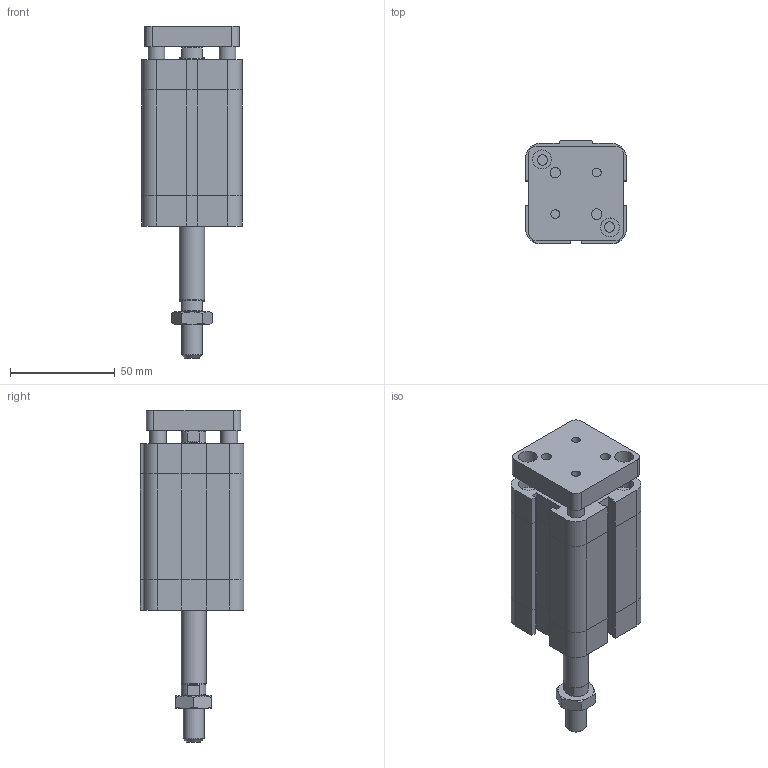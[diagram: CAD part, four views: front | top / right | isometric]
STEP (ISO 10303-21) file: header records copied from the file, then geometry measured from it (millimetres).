
FILE_DESCRIPTION((''),'2;1');
FILE_NAME('I:\Area Tecnica\Disegni\VARIE-3D\Componenti\EUROPE\15##_###_####_09_#\1581_32_0035_09_1.iam.stp','2009-04-20T15:44:18',(''),(''),'Autodesk Inventor 2009','Autodesk Inventor 2009','');
FILE_SCHEMA(('AUTOMOTIVE_DESIGN { 1 0 10303 214 1 1 1 1 }'));
Length unit declared in the file: millimetre
Products named in the file (4): 1581_32_0035_09_1; 1581_32_0035_08_1_C; 1561_32_0035_09_1_SA; DBFM10
Assembly tree (3 placements, depth 2):
  1581_32_0035_09_1
    1581_32_0035_08_1_C
    1561_32_0035_09_1_SA
    DBFM10
Bounding box: 48 x 49.5 x 158.5 mm (x, y, z)
Volume: 191991.4 mm3; surface area: 44688.2 mm2
Topology: 3 solids, 3 shells, 209 faces, 470 edges, 287 vertices
Faces by surface type: plane 120, bspline 45, cylinder 23, cone 21
Full cylindrical faces by diameter (mm): 8 x2, 8.8 x1, 10 x1, 11.7 x2, 12 x1
Entity records: 5963 total; most frequent: CARTESIAN_POINT 1453, DIRECTION 838, ORIENTED_EDGE 834, EDGE_CURVE 417, AXIS2_PLACEMENT_3D 282, EDGE_LOOP 282, VECTOR 274, LINE 274
